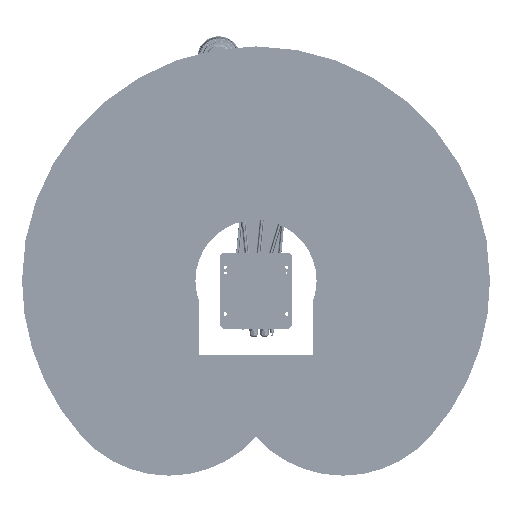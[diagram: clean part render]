
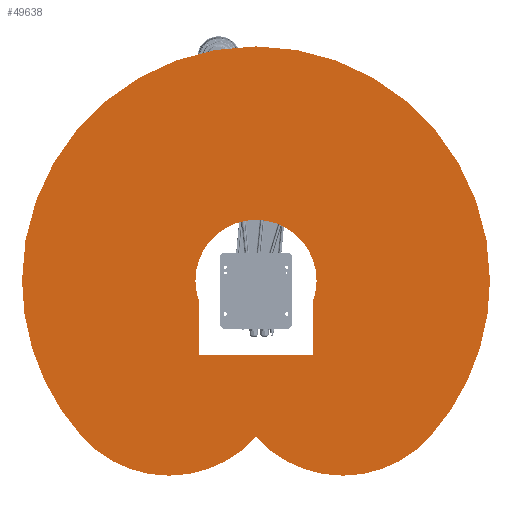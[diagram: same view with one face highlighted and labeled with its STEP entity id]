
A CAD part, front view. The second image highlights one B-rep face of the part: STEP entity #49638.
In plain terms, the highlighted planar face has unit normal (0, -1, 0) as drawn and (0, 0, 1) by its records, which use the part's own axes.
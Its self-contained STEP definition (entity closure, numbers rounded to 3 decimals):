
#3758 = EDGE_CURVE ( 'NONE', #278768, #26295, #252098, .T. ) ;
#6711 = CIRCLE ( 'NONE', #196533, 207.055 ) ;
#13129 = CARTESIAN_POINT ( 'NONE',  ( 196., -255., 208. ) ) ;
#15691 = CARTESIAN_POINT ( 'NONE',  ( 297.258, -267.652, 208. ) ) ;
#20124 = CARTESIAN_POINT ( 'NONE',  ( 0., 0., 208. ) ) ;
#23036 = ORIENTED_EDGE ( 'NONE', *, *, #37646, .F. ) ;
#25457 = CARTESIAN_POINT ( 'NONE',  ( -297.258, -267.652, 208. ) ) ;
#26295 = VERTEX_POINT ( 'NONE', #122317 ) ;
#30122 = CARTESIAN_POINT ( 'NONE',  ( 196., -66.752, 208. ) ) ;
#32025 = CARTESIAN_POINT ( 'NONE',  ( -196., -66.752, 208. ) ) ;
#32437 = CARTESIAN_POINT ( 'NONE',  ( 0., 0., 208. ) ) ;
#34676 = VERTEX_POINT ( 'NONE', #303704 ) ;
#34955 = ORIENTED_EDGE ( 'NONE', *, *, #270915, .T. ) ;
#37296 = LINE ( 'NONE', #222526, #234787 ) ;
#37646 = EDGE_CURVE ( 'NONE', #64087, #313237, #215339, .T. ) ;
#38187 = DIRECTION ( 'NONE',  ( 1., 0., 0. ) ) ;
#45694 = FACE_OUTER_BOUND ( 'NONE', #165787, .T. ) ;
#45840 = EDGE_CURVE ( 'NONE', #343080, #234481, #145242, .T. ) ;
#49638 = ADVANCED_FACE ( 'NONE', ( #45694, #264072 ), #262354, .F. ) ;
#58767 = AXIS2_PLACEMENT_3D ( 'NONE', #205399, #126738, #313747 ) ;
#59525 = EDGE_CURVE ( 'NONE', #204112, #128159, #37296, .T. ) ;
#64087 = VERTEX_POINT ( 'NONE', #13129 ) ;
#66140 = LINE ( 'NONE', #277632, #325399 ) ;
#66184 = ORIENTED_EDGE ( 'NONE', *, *, #144791, .F. ) ;
#70210 = CARTESIAN_POINT ( 'NONE',  ( 0., -267.652, 208. ) ) ;
#74686 = ORIENTED_EDGE ( 'NONE', *, *, #296549, .F. ) ;
#77929 = ORIENTED_EDGE ( 'NONE', *, *, #59525, .F. ) ;
#85571 = AXIS2_PLACEMENT_3D ( 'NONE', #70210, #232647, #99795 ) ;
#87283 = AXIS2_PLACEMENT_3D ( 'NONE', #15691, #202645, #340576 ) ;
#91785 = CARTESIAN_POINT ( 'NONE',  ( 0., 0., 208. ) ) ;
#95066 = DIRECTION ( 'NONE',  ( 0., 0., 1. ) ) ;
#99795 = DIRECTION ( 'NONE',  ( -1., 0., 0. ) ) ;
#99880 = AXIS2_PLACEMENT_3D ( 'NONE', #25457, #231728, #238607 ) ;
#105260 = ORIENTED_EDGE ( 'NONE', *, *, #3758, .F. ) ;
#110210 = CARTESIAN_POINT ( 'NONE',  ( 594.516, -535.304, 208. ) ) ;
#111893 = CARTESIAN_POINT ( 'NONE',  ( 196., -66.752, 208. ) ) ;
#115191 = CIRCLE ( 'NONE', #87283, 400. ) ;
#122317 = CARTESIAN_POINT ( 'NONE',  ( -207.055, 0., 208. ) ) ;
#122905 = CARTESIAN_POINT ( 'NONE',  ( -196., -255., 208. ) ) ;
#122992 = CARTESIAN_POINT ( 'NONE',  ( 207.055, 0., 208. ) ) ;
#126738 = DIRECTION ( 'NONE',  ( 0., 0., 1. ) ) ;
#128159 = VERTEX_POINT ( 'NONE', #122905 ) ;
#140540 = AXIS2_PLACEMENT_3D ( 'NONE', #91785, #306734, #305000 ) ;
#144791 = EDGE_CURVE ( 'NONE', #128159, #64087, #66140, .T. ) ;
#145242 = CIRCLE ( 'NONE', #195355, 800. ) ;
#160587 = ORIENTED_EDGE ( 'NONE', *, *, #245586, .T. ) ;
#161901 = ORIENTED_EDGE ( 'NONE', *, *, #313476, .T. ) ;
#165162 = VECTOR ( 'NONE', #267836, 1000. ) ;
#165787 = EDGE_LOOP ( 'NONE', ( #161901, #193355, #183483, #160587, #34955 ) ) ;
#173691 = DIRECTION ( 'NONE',  ( 1., 0., 0. ) ) ;
#177700 = CARTESIAN_POINT ( 'NONE',  ( 0., 0., 208. ) ) ;
#179016 = AXIS2_PLACEMENT_3D ( 'NONE', #208534, #95066, #173691 ) ;
#179114 = DIRECTION ( 'NONE',  ( 0., 0., 1. ) ) ;
#183483 = ORIENTED_EDGE ( 'NONE', *, *, #320071, .T. ) ;
#193355 = ORIENTED_EDGE ( 'NONE', *, *, #45840, .T. ) ;
#195355 = AXIS2_PLACEMENT_3D ( 'NONE', #177700, #228433, #308856 ) ;
#196533 = AXIS2_PLACEMENT_3D ( 'NONE', #20124, #179114, #261236 ) ;
#202645 = DIRECTION ( 'NONE',  ( 0., 0., 1. ) ) ;
#204112 = VERTEX_POINT ( 'NONE', #32025 ) ;
#205399 = CARTESIAN_POINT ( 'NONE',  ( 0., 0., 208. ) ) ;
#208534 = CARTESIAN_POINT ( 'NONE',  ( 0., 0., 208. ) ) ;
#209447 = CIRCLE ( 'NONE', #58767, 800. ) ;
#215339 = LINE ( 'NONE', #30122, #165162 ) ;
#222526 = CARTESIAN_POINT ( 'NONE',  ( -196., -66.752, 208. ) ) ;
#228353 = VERTEX_POINT ( 'NONE', #239386 ) ;
#228433 = DIRECTION ( 'NONE',  ( 0., 0., 1. ) ) ;
#231728 = DIRECTION ( 'NONE',  ( 0., 0., 1. ) ) ;
#232647 = DIRECTION ( 'NONE',  ( 0., 0., -1. ) ) ;
#234481 = VERTEX_POINT ( 'NONE', #247066 ) ;
#234787 = VECTOR ( 'NONE', #275031, 1000. ) ;
#236603 = CARTESIAN_POINT ( 'NONE',  ( -800., 0., 208. ) ) ;
#238607 = DIRECTION ( 'NONE',  ( 1., 0., 0. ) ) ;
#239386 = CARTESIAN_POINT ( 'NONE',  ( -594.516, -535.304, 208. ) ) ;
#245586 = EDGE_CURVE ( 'NONE', #325894, #228353, #262869, .T. ) ;
#247066 = CARTESIAN_POINT ( 'NONE',  ( 800., 0., 208. ) ) ;
#252098 = CIRCLE ( 'NONE', #140540, 207.055 ) ;
#261236 = DIRECTION ( 'NONE',  ( 1., 0., 0. ) ) ;
#262354 = PLANE ( 'NONE',  #85571 ) ;
#262869 = CIRCLE ( 'NONE', #179016, 800. ) ;
#264072 = FACE_BOUND ( 'NONE', #319401, .T. ) ;
#267836 = DIRECTION ( 'NONE',  ( 0., 1., 0. ) ) ;
#270915 = EDGE_CURVE ( 'NONE', #228353, #34676, #306521, .T. ) ;
#274692 = EDGE_CURVE ( 'NONE', #26295, #204112, #6711, .T. ) ;
#275031 = DIRECTION ( 'NONE',  ( 0., -1., 0. ) ) ;
#277632 = CARTESIAN_POINT ( 'NONE',  ( -196., -255., 208. ) ) ;
#278768 = VERTEX_POINT ( 'NONE', #122992 ) ;
#296549 = EDGE_CURVE ( 'NONE', #313237, #278768, #325653, .T. ) ;
#298159 = DIRECTION ( 'NONE',  ( 1., 0., 0. ) ) ;
#303704 = CARTESIAN_POINT ( 'NONE',  ( 0., -535.304, 208. ) ) ;
#305000 = DIRECTION ( 'NONE',  ( 1., 0., 0. ) ) ;
#306521 = CIRCLE ( 'NONE', #99880, 400. ) ;
#306734 = DIRECTION ( 'NONE',  ( 0., 0., 1. ) ) ;
#308856 = DIRECTION ( 'NONE',  ( 1., 0., 0. ) ) ;
#313237 = VERTEX_POINT ( 'NONE', #111893 ) ;
#313476 = EDGE_CURVE ( 'NONE', #34676, #343080, #115191, .T. ) ;
#313747 = DIRECTION ( 'NONE',  ( 1., 0., 0. ) ) ;
#319401 = EDGE_LOOP ( 'NONE', ( #74686, #23036, #66184, #77929, #328451, #105260 ) ) ;
#320071 = EDGE_CURVE ( 'NONE', #234481, #325894, #209447, .T. ) ;
#325399 = VECTOR ( 'NONE', #38187, 1000. ) ;
#325653 = CIRCLE ( 'NONE', #336861, 207.055 ) ;
#325894 = VERTEX_POINT ( 'NONE', #236603 ) ;
#328451 = ORIENTED_EDGE ( 'NONE', *, *, #274692, .F. ) ;
#329430 = DIRECTION ( 'NONE',  ( 0., 0., 1. ) ) ;
#336861 = AXIS2_PLACEMENT_3D ( 'NONE', #32437, #329430, #298159 ) ;
#340576 = DIRECTION ( 'NONE',  ( -1., 0., 0. ) ) ;
#343080 = VERTEX_POINT ( 'NONE', #110210 ) ;
